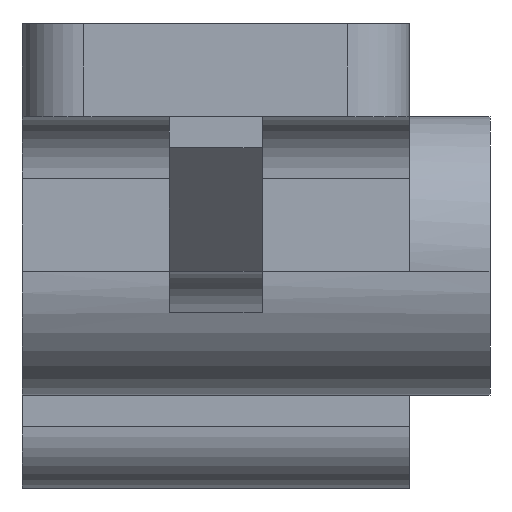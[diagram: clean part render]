
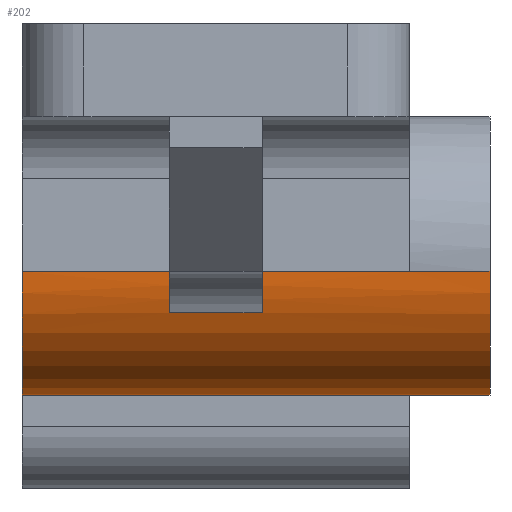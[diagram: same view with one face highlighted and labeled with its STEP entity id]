
A CAD part, left-side view. The second image highlights one B-rep face of the part: STEP entity #202.
In plain terms, the highlighted cylindrical face has radius 5.08 mm (diameter 10.16 mm), a partial arc.
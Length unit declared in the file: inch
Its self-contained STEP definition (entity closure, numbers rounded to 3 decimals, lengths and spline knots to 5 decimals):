
#11 = VECTOR ( 'NONE', #276, 39.37008 ) ;
#16 = ORIENTED_EDGE ( 'NONE', *, *, #1159, .F. ) ;
#19 = DIRECTION ( 'NONE',  ( 0., 0., -1. ) ) ;
#41 = CYLINDRICAL_SURFACE ( 'NONE', #858, 0.2 ) ;
#54 = DIRECTION ( 'NONE',  ( 0., 0., -1. ) ) ;
#68 = LINE ( 'NONE', #484, #152 ) ;
#84 = LINE ( 'NONE', #644, #752 ) ;
#96 = VERTEX_POINT ( 'NONE', #198 ) ;
#108 = CARTESIAN_POINT ( 'NONE',  ( -1.635, 0.3125, 0.35 ) ) ;
#133 = CIRCLE ( 'NONE', #1541, 0.2 ) ;
#140 = ORIENTED_EDGE ( 'NONE', *, *, #810, .T. ) ;
#151 = VERTEX_POINT ( 'NONE', #280 ) ;
#152 = VECTOR ( 'NONE', #1598, 39.37008 ) ;
#154 = EDGE_CURVE ( 'NONE', #151, #1325, #133, .T. ) ;
#169 = AXIS2_PLACEMENT_3D ( 'NONE', #324, #1335, #54 ) ;
#172 = DIRECTION ( 'NONE',  ( 0., 0., -1. ) ) ;
#177 = DIRECTION ( 'NONE',  ( 0., 1., 0. ) ) ;
#198 = CARTESIAN_POINT ( 'NONE',  ( -1.635, 0.3125, 0.15 ) ) ;
#202 = ADVANCED_FACE ( 'NONE', ( #1070 ), #41, .T. ) ;
#245 = DIRECTION ( 'NONE',  ( 0., 0., -1. ) ) ;
#252 = EDGE_CURVE ( 'NONE', #414, #1034, #370, .T. ) ;
#274 = ORIENTED_EDGE ( 'NONE', *, *, #333, .T. ) ;
#276 = DIRECTION ( 'NONE',  ( 0., -1., 0. ) ) ;
#277 = ORIENTED_EDGE ( 'NONE', *, *, #154, .F. ) ;
#280 = CARTESIAN_POINT ( 'NONE',  ( -1.835, -0.4425, 0.35 ) ) ;
#281 = EDGE_CURVE ( 'NONE', #918, #795, #1329, .T. ) ;
#289 = CIRCLE ( 'NONE', #169, 0.2 ) ;
#324 = CARTESIAN_POINT ( 'NONE',  ( -1.635, 0.075, 0.35 ) ) ;
#333 = EDGE_CURVE ( 'NONE', #151, #978, #1221, .T. ) ;
#336 = ORIENTED_EDGE ( 'NONE', *, *, #1483, .F. ) ;
#346 = DIRECTION ( 'NONE',  ( 0., 0., 1. ) ) ;
#370 = LINE ( 'NONE', #1164, #11 ) ;
#384 = ORIENTED_EDGE ( 'NONE', *, *, #252, .F. ) ;
#397 = EDGE_CURVE ( 'NONE', #898, #918, #851, .T. ) ;
#409 = AXIS2_PLACEMENT_3D ( 'NONE', #1530, #671, #346 ) ;
#414 = VERTEX_POINT ( 'NONE', #917 ) ;
#484 = CARTESIAN_POINT ( 'NONE',  ( -1.835, -0.3125, 0.35 ) ) ;
#506 = ORIENTED_EDGE ( 'NONE', *, *, #1383, .F. ) ;
#552 = DIRECTION ( 'NONE',  ( 0., 1., 0. ) ) ;
#556 = ORIENTED_EDGE ( 'NONE', *, *, #397, .T. ) ;
#621 = AXIS2_PLACEMENT_3D ( 'NONE', #108, #1013, #245 ) ;
#644 = CARTESIAN_POINT ( 'NONE',  ( -1.635, 0.3125, 0.15 ) ) ;
#671 = DIRECTION ( 'NONE',  ( 0., -1., 0. ) ) ;
#683 = CARTESIAN_POINT ( 'NONE',  ( -1.635, 0., 0.35 ) ) ;
#705 = CARTESIAN_POINT ( 'NONE',  ( -1.835, -0.3125, 0.35 ) ) ;
#716 = CARTESIAN_POINT ( 'NONE',  ( -1.835, 0.075, 0.35 ) ) ;
#752 = VECTOR ( 'NONE', #1009, 39.37008 ) ;
#778 = CARTESIAN_POINT ( 'NONE',  ( -1.82356, 0.075, 0.28333 ) ) ;
#795 = VERTEX_POINT ( 'NONE', #778 ) ;
#810 = EDGE_CURVE ( 'NONE', #795, #1034, #289, .T. ) ;
#823 = DIRECTION ( 'NONE',  ( 0., -1., 0. ) ) ;
#851 = CIRCLE ( 'NONE', #409, 0.2 ) ;
#858 = AXIS2_PLACEMENT_3D ( 'NONE', #683, #823, #19 ) ;
#898 = VERTEX_POINT ( 'NONE', #1030 ) ;
#917 = CARTESIAN_POINT ( 'NONE',  ( -1.835, 0.3125, 0.35 ) ) ;
#918 = VERTEX_POINT ( 'NONE', #1321 ) ;
#978 = VERTEX_POINT ( 'NONE', #705 ) ;
#1009 = DIRECTION ( 'NONE',  ( 0., 1., 0. ) ) ;
#1013 = DIRECTION ( 'NONE',  ( 0., 1., 0. ) ) ;
#1030 = CARTESIAN_POINT ( 'NONE',  ( -1.835, -0.075, 0.35 ) ) ;
#1034 = VERTEX_POINT ( 'NONE', #716 ) ;
#1042 = CIRCLE ( 'NONE', #621, 0.2 ) ;
#1070 = FACE_OUTER_BOUND ( 'NONE', #1503, .T. ) ;
#1159 = EDGE_CURVE ( 'NONE', #96, #414, #1042, .T. ) ;
#1164 = CARTESIAN_POINT ( 'NONE',  ( -1.835, -0.3125, 0.35 ) ) ;
#1177 = ORIENTED_EDGE ( 'NONE', *, *, #281, .T. ) ;
#1198 = DIRECTION ( 'NONE',  ( 0., -1., 0. ) ) ;
#1221 = LINE ( 'NONE', #1432, #1575 ) ;
#1274 = CARTESIAN_POINT ( 'NONE',  ( -1.635, -0.4425, 0.15 ) ) ;
#1289 = CARTESIAN_POINT ( 'NONE',  ( -1.82356, 0., 0.28333 ) ) ;
#1290 = VECTOR ( 'NONE', #552, 39.37008 ) ;
#1291 = CARTESIAN_POINT ( 'NONE',  ( -1.635, -0.4425, 0.35 ) ) ;
#1321 = CARTESIAN_POINT ( 'NONE',  ( -1.82356, -0.075, 0.28333 ) ) ;
#1325 = VERTEX_POINT ( 'NONE', #1274 ) ;
#1329 = LINE ( 'NONE', #1289, #1290 ) ;
#1335 = DIRECTION ( 'NONE',  ( 0., 1., 0. ) ) ;
#1383 = EDGE_CURVE ( 'NONE', #898, #978, #68, .T. ) ;
#1432 = CARTESIAN_POINT ( 'NONE',  ( -1.835, -0.4425, 0.35 ) ) ;
#1483 = EDGE_CURVE ( 'NONE', #1325, #96, #84, .T. ) ;
#1503 = EDGE_LOOP ( 'NONE', ( #506, #556, #1177, #140, #384, #16, #336, #277, #274 ) ) ;
#1530 = CARTESIAN_POINT ( 'NONE',  ( -1.635, -0.075, 0.35 ) ) ;
#1541 = AXIS2_PLACEMENT_3D ( 'NONE', #1291, #1198, #172 ) ;
#1575 = VECTOR ( 'NONE', #177, 39.37008 ) ;
#1598 = DIRECTION ( 'NONE',  ( 0., -1., 0. ) ) ;
